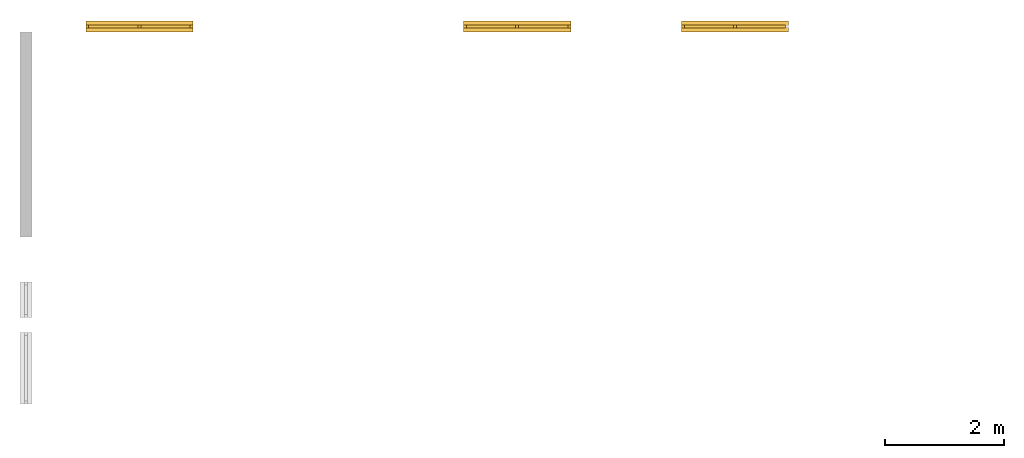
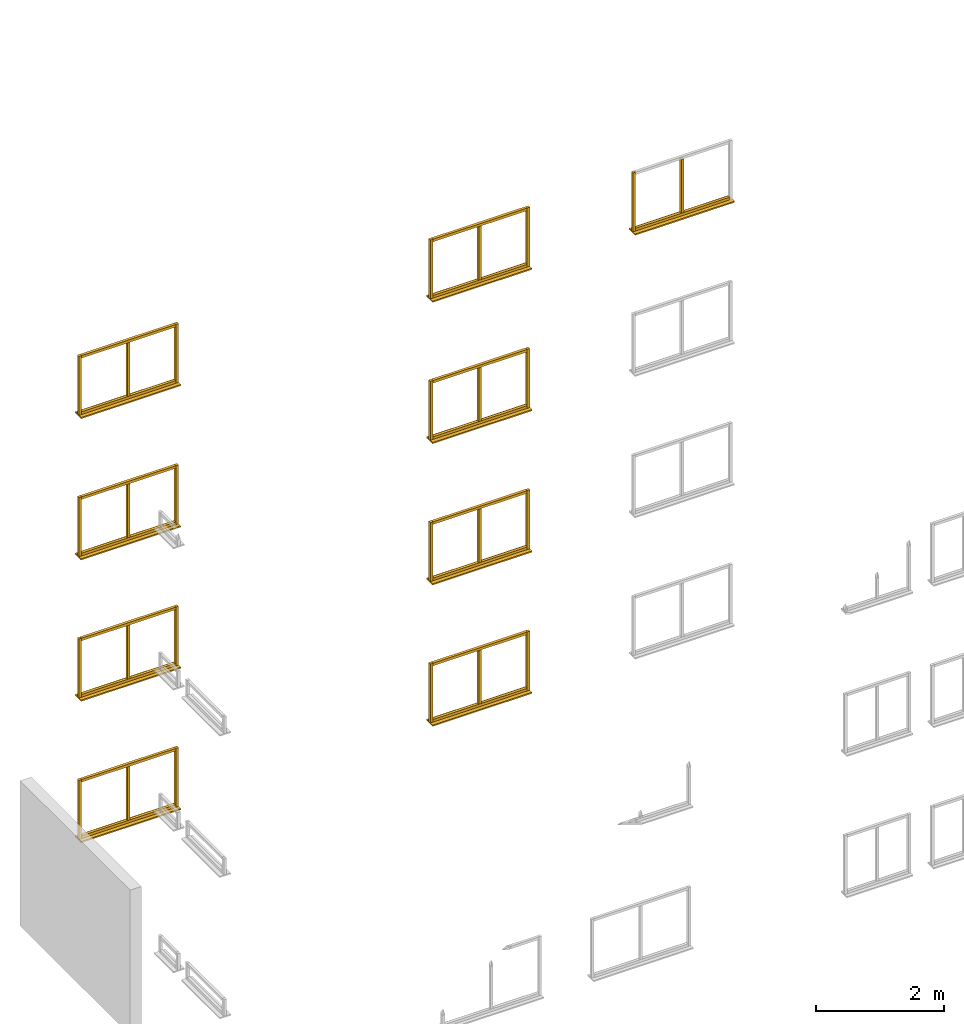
# Not in any storey, part 8 of 22: 52 windows.
"""IFC2X3 model written with IfcOpenShell, lengths in metres."""

from ifc_helpers import new_model, si_unit, frame, origin, place, context, project, faceted_brep, element, save


model = new_model("IFC2X3")

# Units and contexts
model_context = context("Model", 3, precision=1e-06, world=origin())
ifc_project = project(units=[si_unit("LENGTHUNIT", "METRE"), si_unit("PLANEANGLEUNIT", "RADIAN")], contexts=[model_context])

# Windows
placement = place(None, origin())
window_1_placement = place(placement, frame((2.655000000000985, 10.588578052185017, 9.125000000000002), z_axis=(0.0, 0.0, 1.0), x_axis=(-1.0, 0.0, 0.0)))
element("IfcWindow", 1, at=window_1_placement, Name="bottomFrame", context=model_context, shape_type="Brep", body=[
    faceted_brep([(0.0, 0.05, 0.0), (1.7, 0.05, 0.0), (1.7, 0.0, 0.0), (0.0, 0.0, 0.0), (1.7, 0.0, 0.05), (1.7, 0.05, 0.05), (0.0, 0.05, 0.05), (0.0, 0.0, 0.05), (0.0, 0.05, 0.0), (0.0, 0.0, 0.0), (0.0, 0.0, 0.05), (0.0, 0.05, 0.05), (1.7, 0.05, 0.0), (0.0, 0.05, 0.0), (0.0, 0.05, 0.05), (1.7, 0.05, 0.05), (1.7, 0.0, 0.0), (1.7, 0.05, 0.0), (1.7, 0.05, 0.05), (1.7, 0.0, 0.05), (0.0, 0.0, 0.0), (1.7, 0.0, 0.0), (1.7, 0.0, 0.05), (0.0, 0.0, 0.05)], [[[0, 1, 2, 3]], [[4, 5, 6, 7]], [[8, 9, 10, 11]], [[12, 13, 14, 15]], [[16, 17, 18, 19]], [[20, 21, 22, 23]]]),
])
window_2_placement = place(placement, frame((11.839598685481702, 10.588577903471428, 9.175), z_axis=(0.0, 0.0, 1.0), x_axis=(-1.0, 0.0, 0.0)))
element("IfcWindow", 2, at=window_2_placement, Name="verticalBar", context=model_context, shape_type="Brep", body=[
    faceted_brep([(0.0, 0.05, 0.0), (0.05, 0.05, 0.0), (0.05, 0.0, 0.0), (0.0, 0.0, 0.0), (0.05, 0.0, 1.025), (0.05, 0.05, 1.025), (0.0, 0.05, 1.025), (0.0, 0.0, 1.025), (0.0, 0.05, 0.0), (0.0, 0.0, 0.0), (0.0, 0.0, 1.025), (0.0, 0.05, 1.025), (0.05, 0.05, 0.0), (0.0, 0.05, 0.0), (0.0, 0.05, 1.025), (0.05, 0.05, 1.025), (0.05, 0.0, 0.0), (0.05, 0.05, 0.0), (0.05, 0.05, 1.025), (0.05, 0.0, 1.025), (0.0, 0.0, 0.0), (0.05, 0.0, 0.0), (0.05, 0.0, 1.025), (0.0, 0.0, 1.025)], [[[0, 1, 2, 3]], [[4, 5, 6, 7]], [[8, 9, 10, 11]], [[12, 13, 14, 15]], [[16, 17, 18, 19]], [[20, 21, 22, 23]]]),
])
window_3_placement = place(placement, frame((12.714598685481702, 10.657077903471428, 9.100000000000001), z_axis=(0.0, 0.0, 1.0), x_axis=(-1.0, 0.0, 0.0)))
element("IfcWindow", 3, at=window_3_placement, Name="windowSill", context=model_context, shape_type="Brep", body=[
    faceted_brep([(0.0, 0.187, 0.0), (1.8, 0.187, 0.0), (1.8, 0.0, 0.0), (0.0, 0.0, 0.0), (1.8, 0.0, 0.025), (1.8, 0.187, 0.025), (0.0, 0.187, 0.025), (0.0, 0.0, 0.025), (0.0, 0.187, 0.0), (0.0, 0.0, 0.0), (0.0, 0.0, 0.025), (0.0, 0.187, 0.025), (1.8, 0.187, 0.0), (0.0, 0.187, 0.0), (0.0, 0.187, 0.025), (1.8, 0.187, 0.025), (1.8, 0.0, 0.0), (1.8, 0.187, 0.0), (1.8, 0.187, 0.025), (1.8, 0.0, 0.025), (0.0, 0.0, 0.0), (1.8, 0.0, 0.0), (1.8, 0.0, 0.025), (0.0, 0.0, 0.025)], [[[0, 1, 2, 3]], [[4, 5, 6, 7]], [[8, 9, 10, 11]], [[12, 13, 14, 15]], [[16, 17, 18, 19]], [[20, 21, 22, 23]]]),
])
window_4_placement = place(placement, frame((10.964598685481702, 10.588577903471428, 9.125000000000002), z_axis=(0.0, 0.0, 1.0), x_axis=(-1.0, 0.0, 0.0)))
element("IfcWindow", 4, at=window_4_placement, Name="rightFrame", context=model_context, shape_type="Brep", body=[
    faceted_brep([(0.0, 0.05, 0.0), (0.05, 0.05, 0.0), (0.05, 0.0, 0.0), (0.0, 0.0, 0.0), (0.05, 0.0, 1.125), (0.05, 0.05, 1.125), (0.0, 0.05, 1.125), (0.0, 0.0, 1.125), (0.0, 0.05, 0.0), (0.0, 0.0, 0.0), (0.0, 0.0, 1.125), (0.0, 0.05, 1.125), (0.05, 0.05, 0.0), (0.0, 0.05, 0.0), (0.0, 0.05, 1.125), (0.05, 0.05, 1.125), (0.05, 0.0, 0.0), (0.05, 0.05, 0.0), (0.05, 0.05, 1.125), (0.05, 0.0, 1.125), (0.0, 0.0, 0.0), (0.05, 0.0, 0.0), (0.05, 0.0, 1.125), (0.0, 0.0, 1.125)], [[[0, 1, 2, 3]], [[4, 5, 6, 7]], [[8, 9, 10, 11]], [[12, 13, 14, 15]], [[16, 17, 18, 19]], [[20, 21, 22, 23]]]),
])
window_5_placement = place(placement, frame((12.664598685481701, 10.588577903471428, 9.125000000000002), z_axis=(0.0, 0.0, 1.0), x_axis=(-1.0, 0.0, 0.0)))
element("IfcWindow", 5, at=window_5_placement, Name="bottomFrame", context=model_context, shape_type="Brep", body=[
    faceted_brep([(0.0, 0.05, 0.0), (1.7, 0.05, 0.0), (1.7, 0.0, 0.0), (0.0, 0.0, 0.0), (1.7, 0.0, 0.05), (1.7, 0.05, 0.05), (0.0, 0.05, 0.05), (0.0, 0.0, 0.05), (0.0, 0.05, 0.0), (0.0, 0.0, 0.0), (0.0, 0.0, 0.05), (0.0, 0.05, 0.05), (1.7, 0.05, 0.0), (0.0, 0.05, 0.0), (0.0, 0.05, 0.05), (1.7, 0.05, 0.05), (1.7, 0.0, 0.0), (1.7, 0.05, 0.0), (1.7, 0.05, 0.05), (1.7, 0.0, 0.05), (0.0, 0.0, 0.0), (1.7, 0.0, 0.0), (1.7, 0.0, 0.05), (0.0, 0.0, 0.05)], [[[0, 1, 2, 3]], [[4, 5, 6, 7]], [[8, 9, 10, 11]], [[12, 13, 14, 15]], [[16, 17, 18, 19]], [[20, 21, 22, 23]]]),
])
window_6_placement = place(placement, frame((7.304598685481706, 10.588577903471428, 9.125000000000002), z_axis=(0.0, 0.0, 1.0), x_axis=(-1.0, 0.0, 0.0)))
element("IfcWindow", 6, at=window_6_placement, Name="rightFrame", context=model_context, shape_type="Brep", body=[
    faceted_brep([(0.0, 0.05, 0.0), (0.05, 0.05, 0.0), (0.05, 0.0, 0.0), (0.0, 0.0, 0.0), (0.05, 0.0, 1.125), (0.05, 0.05, 1.125), (0.0, 0.05, 1.125), (0.0, 0.0, 1.125), (0.0, 0.05, 0.0), (0.0, 0.0, 0.0), (0.0, 0.0, 1.125), (0.0, 0.05, 1.125), (0.05, 0.05, 0.0), (0.0, 0.05, 0.0), (0.0, 0.05, 1.125), (0.05, 0.05, 1.125), (0.05, 0.0, 0.0), (0.05, 0.05, 0.0), (0.05, 0.05, 1.125), (0.05, 0.0, 1.125), (0.0, 0.0, 0.0), (0.05, 0.0, 0.0), (0.05, 0.0, 1.125), (0.0, 0.0, 1.125)], [[[0, 1, 2, 3]], [[4, 5, 6, 7]], [[8, 9, 10, 11]], [[12, 13, 14, 15]], [[16, 17, 18, 19]], [[20, 21, 22, 23]]]),
])
for number, where, z_axis, x_axis, name in (
    (7, (9.004598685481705, 10.588577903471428, 9.125000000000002), (0.0, 0.0, 1.0), (-1.0, 0.0, 0.0), "bottomFrame"),
    (8, (9.004598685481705, 10.588577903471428, 10.200000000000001), (0.0, 0.0, 1.0), (-1.0, 0.0, 0.0), "topFrame"),
):
    element("IfcWindow", number, at=place(placement, frame(where, z_axis=z_axis, x_axis=x_axis)), Name=name, context=model_context, shape_type="Brep", body=[
        faceted_brep([(0.0, 0.05, 0.0), (1.7, 0.05, 0.0), (1.7, 0.0, 0.0), (0.0, 0.0, 0.0), (1.7, 0.0, 0.05), (1.7, 0.05, 0.05), (0.0, 0.05, 0.05), (0.0, 0.0, 0.05), (0.0, 0.05, 0.0), (0.0, 0.0, 0.0), (0.0, 0.0, 0.05), (0.0, 0.05, 0.05), (1.7, 0.05, 0.0), (0.0, 0.05, 0.0), (0.0, 0.05, 0.05), (1.7, 0.05, 0.05), (1.7, 0.0, 0.0), (1.7, 0.05, 0.0), (1.7, 0.05, 0.05), (1.7, 0.0, 0.05), (0.0, 0.0, 0.0), (1.7, 0.0, 0.0), (1.7, 0.0, 0.05), (0.0, 0.0, 0.05)], [[[0, 1, 2, 3]], [[4, 5, 6, 7]], [[8, 9, 10, 11]], [[12, 13, 14, 15]], [[16, 17, 18, 19]], [[20, 21, 22, 23]]]),
    ])
window_7_placement = place(placement, frame((9.054598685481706, 10.588577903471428, 9.125000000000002), z_axis=(0.0, 0.0, 1.0), x_axis=(-1.0, 0.0, 0.0)))
element("IfcWindow", 9, at=window_7_placement, Name="leftFrame", context=model_context, shape_type="Brep", body=[
    faceted_brep([(0.0, 0.05, 0.0), (0.05, 0.05, 0.0), (0.05, 0.0, 0.0), (0.0, 0.0, 0.0), (0.05, 0.0, 1.125), (0.05, 0.05, 1.125), (0.0, 0.05, 1.125), (0.0, 0.0, 1.125), (0.0, 0.05, 0.0), (0.0, 0.0, 0.0), (0.0, 0.0, 1.125), (0.0, 0.05, 1.125), (0.05, 0.05, 0.0), (0.0, 0.05, 0.0), (0.0, 0.05, 1.125), (0.05, 0.05, 1.125), (0.05, 0.0, 0.0), (0.05, 0.05, 0.0), (0.05, 0.05, 1.125), (0.05, 0.0, 1.125), (0.0, 0.0, 0.0), (0.05, 0.0, 0.0), (0.05, 0.0, 1.125), (0.0, 0.0, 1.125)], [[[0, 1, 2, 3]], [[4, 5, 6, 7]], [[8, 9, 10, 11]], [[12, 13, 14, 15]], [[16, 17, 18, 19]], [[20, 21, 22, 23]]]),
])
window_8_placement = place(placement, frame((8.179598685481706, 10.588577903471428, 9.175), z_axis=(0.0, 0.0, 1.0), x_axis=(-1.0, 0.0, 0.0)))
element("IfcWindow", 10, at=window_8_placement, Name="verticalBar", context=model_context, shape_type="Brep", body=[
    faceted_brep([(0.0, 0.05, 0.0), (0.05, 0.05, 0.0), (0.05, 0.0, 0.0), (0.0, 0.0, 0.0), (0.05, 0.0, 1.025), (0.05, 0.05, 1.025), (0.0, 0.05, 1.025), (0.0, 0.0, 1.025), (0.0, 0.05, 0.0), (0.0, 0.0, 0.0), (0.0, 0.0, 1.025), (0.0, 0.05, 1.025), (0.05, 0.05, 0.0), (0.0, 0.05, 0.0), (0.0, 0.05, 1.025), (0.05, 0.05, 1.025), (0.05, 0.0, 0.0), (0.05, 0.05, 0.0), (0.05, 0.05, 1.025), (0.05, 0.0, 1.025), (0.0, 0.0, 0.0), (0.05, 0.0, 0.0), (0.05, 0.0, 1.025), (0.0, 0.0, 1.025)], [[[0, 1, 2, 3]], [[4, 5, 6, 7]], [[8, 9, 10, 11]], [[12, 13, 14, 15]], [[16, 17, 18, 19]], [[20, 21, 22, 23]]]),
])
window_9_placement = place(placement, frame((9.054598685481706, 10.657077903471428, 9.100000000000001), z_axis=(0.0, 0.0, 1.0), x_axis=(-1.0, 0.0, 0.0)))
element("IfcWindow", 11, at=window_9_placement, Name="windowSill", context=model_context, shape_type="Brep", body=[
    faceted_brep([(0.0, 0.186999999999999, 0.0), (1.8, 0.186999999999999, 0.0), (1.8, 0.0, 0.0), (0.0, 0.0, 0.0), (1.8, 0.0, 0.025), (1.8, 0.186999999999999, 0.025), (0.0, 0.186999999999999, 0.025), (0.0, 0.0, 0.025), (0.0, 0.186999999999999, 0.0), (0.0, 0.0, 0.0), (0.0, 0.0, 0.025), (0.0, 0.186999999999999, 0.025), (1.8, 0.186999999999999, 0.0), (0.0, 0.186999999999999, 0.0), (0.0, 0.186999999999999, 0.025), (1.8, 0.186999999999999, 0.025), (1.8, 0.0, 0.0), (1.8, 0.186999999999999, 0.0), (1.8, 0.186999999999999, 0.025), (1.8, 0.0, 0.025), (0.0, 0.0, 0.0), (1.8, 0.0, 0.0), (1.8, 0.0, 0.025), (0.0, 0.0, 0.025)], [[[0, 1, 2, 3]], [[4, 5, 6, 7]], [[8, 9, 10, 11]], [[12, 13, 14, 15]], [[16, 17, 18, 19]], [[20, 21, 22, 23]]]),
])
window_10_placement = place(placement, frame((9.004598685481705, 10.588577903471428, 3.725), z_axis=(0.0, 0.0, 1.0), x_axis=(-1.0, 0.0, 0.0)))
element("IfcWindow", 12, at=window_10_placement, Name="bottomFrame", context=model_context, shape_type="Brep", body=[
    faceted_brep([(0.0, 0.05, 0.0), (1.7, 0.05, 0.0), (1.7, 0.0, 0.0), (0.0, 0.0, 0.0), (1.7, 0.0, 0.05), (1.7, 0.05, 0.05), (0.0, 0.05, 0.05), (0.0, 0.0, 0.05), (0.0, 0.05, 0.0), (0.0, 0.0, 0.0), (0.0, 0.0, 0.05), (0.0, 0.05, 0.05), (1.7, 0.05, 0.0), (0.0, 0.05, 0.0), (0.0, 0.05, 0.05), (1.7, 0.05, 0.05), (1.7, 0.0, 0.0), (1.7, 0.05, 0.0), (1.7, 0.05, 0.05), (1.7, 0.0, 0.05), (0.0, 0.0, 0.0), (1.7, 0.0, 0.0), (1.7, 0.0, 0.05), (0.0, 0.0, 0.05)], [[[0, 1, 2, 3]], [[4, 5, 6, 7]], [[8, 9, 10, 11]], [[12, 13, 14, 15]], [[16, 17, 18, 19]], [[20, 21, 22, 23]]]),
])
window_11_placement = place(placement, frame((1.830000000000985, 10.588578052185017, 9.175), z_axis=(0.0, 0.0, 1.0), x_axis=(-1.0, 0.0, 0.0)))
element("IfcWindow", 13, at=window_11_placement, Name="verticalBar", context=model_context, shape_type="Brep", body=[
    faceted_brep([(0.0, 0.05, 0.0), (0.05, 0.05, 0.0), (0.05, 0.0, 0.0), (0.0, 0.0, 0.0), (0.05, 0.0, 1.025), (0.05, 0.05, 1.025), (0.0, 0.05, 1.025), (0.0, 0.0, 1.025), (0.0, 0.05, 0.0), (0.0, 0.0, 0.0), (0.0, 0.0, 1.025), (0.0, 0.05, 1.025), (0.05, 0.05, 0.0), (0.0, 0.05, 0.0), (0.0, 0.05, 1.025), (0.05, 0.05, 1.025), (0.05, 0.0, 0.0), (0.05, 0.05, 0.0), (0.05, 0.05, 1.025), (0.05, 0.0, 1.025), (0.0, 0.0, 0.0), (0.05, 0.0, 0.0), (0.05, 0.0, 1.025), (0.0, 0.0, 1.025)], [[[0, 1, 2, 3]], [[4, 5, 6, 7]], [[8, 9, 10, 11]], [[12, 13, 14, 15]], [[16, 17, 18, 19]], [[20, 21, 22, 23]]]),
])
window_12_placement = place(placement, frame((2.705000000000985, 10.657078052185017, 9.100000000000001), z_axis=(0.0, 0.0, 1.0), x_axis=(-1.0, 0.0, 0.0)))
element("IfcWindow", 14, at=window_12_placement, Name="windowSill", context=model_context, shape_type="Brep", body=[
    faceted_brep([(0.0, 0.187, 0.0), (1.8, 0.187, 0.0), (1.8, 0.0, 0.0), (0.0, 0.0, 0.0), (1.8, 0.0, 0.025), (1.8, 0.187, 0.025), (0.0, 0.187, 0.025), (0.0, 0.0, 0.025), (0.0, 0.187, 0.0), (0.0, 0.0, 0.0), (0.0, 0.0, 0.025), (0.0, 0.187, 0.025), (1.8, 0.187, 0.0), (0.0, 0.187, 0.0), (0.0, 0.187, 0.025), (1.8, 0.187, 0.025), (1.8, 0.0, 0.0), (1.8, 0.187, 0.0), (1.8, 0.187, 0.025), (1.8, 0.0, 0.025), (0.0, 0.0, 0.0), (1.8, 0.0, 0.0), (1.8, 0.0, 0.025), (0.0, 0.0, 0.025)], [[[0, 1, 2, 3]], [[4, 5, 6, 7]], [[8, 9, 10, 11]], [[12, 13, 14, 15]], [[16, 17, 18, 19]], [[20, 21, 22, 23]]]),
])
for number, where, z_axis, x_axis, name in (
    (15, (0.955000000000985, 10.588578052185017, 9.125000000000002), (0.0, 0.0, 1.0), (-1.0, 0.0, 0.0), "rightFrame"),
    (16, (2.705000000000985, 10.588578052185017, 9.125000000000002), (0.0, 0.0, 1.0), (-1.0, 0.0, 0.0), "leftFrame"),
):
    element("IfcWindow", number, at=place(placement, frame(where, z_axis=z_axis, x_axis=x_axis)), Name=name, context=model_context, shape_type="Brep", body=[
        faceted_brep([(0.0, 0.05, 0.0), (0.05, 0.05, 0.0), (0.05, 0.0, 0.0), (0.0, 0.0, 0.0), (0.05, 0.0, 1.125), (0.05, 0.05, 1.125), (0.0, 0.05, 1.125), (0.0, 0.0, 1.125), (0.0, 0.05, 0.0), (0.0, 0.0, 0.0), (0.0, 0.0, 1.125), (0.0, 0.05, 1.125), (0.05, 0.05, 0.0), (0.0, 0.05, 0.0), (0.0, 0.05, 1.125), (0.05, 0.05, 1.125), (0.05, 0.0, 0.0), (0.05, 0.05, 0.0), (0.05, 0.05, 1.125), (0.05, 0.0, 1.125), (0.0, 0.0, 0.0), (0.05, 0.0, 0.0), (0.05, 0.0, 1.125), (0.0, 0.0, 1.125)], [[[0, 1, 2, 3]], [[4, 5, 6, 7]], [[8, 9, 10, 11]], [[12, 13, 14, 15]], [[16, 17, 18, 19]], [[20, 21, 22, 23]]]),
    ])
for number, where, z_axis, x_axis, name in (
    (17, (2.655000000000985, 10.588578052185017, 10.200000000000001), (0.0, 0.0, 1.0), (-1.0, 0.0, 0.0), "topFrame"),
    (18, (2.655000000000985, 10.588578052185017, 6.425000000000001), (0.0, 0.0, 1.0), (-1.0, 0.0, 0.0), "bottomFrame"),
    (19, (2.655000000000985, 10.588578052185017, 7.5), (0.0, 0.0, 1.0), (-1.0, 0.0, 0.0), "topFrame"),
):
    element("IfcWindow", number, at=place(placement, frame(where, z_axis=z_axis, x_axis=x_axis)), Name=name, context=model_context, shape_type="Brep", body=[
        faceted_brep([(0.0, 0.05, 0.0), (1.7, 0.05, 0.0), (1.7, 0.0, 0.0), (0.0, 0.0, 0.0), (1.7, 0.0, 0.05), (1.7, 0.05, 0.05), (0.0, 0.05, 0.05), (0.0, 0.0, 0.05), (0.0, 0.05, 0.0), (0.0, 0.0, 0.0), (0.0, 0.0, 0.05), (0.0, 0.05, 0.05), (1.7, 0.05, 0.0), (0.0, 0.05, 0.0), (0.0, 0.05, 0.05), (1.7, 0.05, 0.05), (1.7, 0.0, 0.0), (1.7, 0.05, 0.0), (1.7, 0.05, 0.05), (1.7, 0.0, 0.05), (0.0, 0.0, 0.0), (1.7, 0.0, 0.0), (1.7, 0.0, 0.05), (0.0, 0.0, 0.05)], [[[0, 1, 2, 3]], [[4, 5, 6, 7]], [[8, 9, 10, 11]], [[12, 13, 14, 15]], [[16, 17, 18, 19]], [[20, 21, 22, 23]]]),
    ])
window_13_placement = place(placement, frame((2.705000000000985, 10.588578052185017, 6.425000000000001), z_axis=(0.0, 0.0, 1.0), x_axis=(-1.0, 0.0, 0.0)))
element("IfcWindow", 20, at=window_13_placement, Name="leftFrame", context=model_context, shape_type="Brep", body=[
    faceted_brep([(0.0, 0.05, 0.0), (0.05, 0.05, 0.0), (0.05, 0.0, 0.0), (0.0, 0.0, 0.0), (0.05, 0.0, 1.125), (0.05, 0.05, 1.125), (0.0, 0.05, 1.125), (0.0, 0.0, 1.125), (0.0, 0.05, 0.0), (0.0, 0.0, 0.0), (0.0, 0.0, 1.125), (0.0, 0.05, 1.125), (0.05, 0.05, 0.0), (0.0, 0.05, 0.0), (0.0, 0.05, 1.125), (0.05, 0.05, 1.125), (0.05, 0.0, 0.0), (0.05, 0.05, 0.0), (0.05, 0.05, 1.125), (0.05, 0.0, 1.125), (0.0, 0.0, 0.0), (0.05, 0.0, 0.0), (0.05, 0.0, 1.125), (0.0, 0.0, 1.125)], [[[0, 1, 2, 3]], [[4, 5, 6, 7]], [[8, 9, 10, 11]], [[12, 13, 14, 15]], [[16, 17, 18, 19]], [[20, 21, 22, 23]]]),
])
window_14_placement = place(placement, frame((2.705000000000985, 10.657078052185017, 6.4), z_axis=(0.0, 0.0, 1.0), x_axis=(-1.0, 0.0, 0.0)))
element("IfcWindow", 21, at=window_14_placement, Name="windowSill", context=model_context, shape_type="Brep", body=[
    faceted_brep([(0.0, 0.187, 0.0), (1.8, 0.187, 0.0), (1.8, 0.0, 0.0), (0.0, 0.0, 0.0), (1.8, 0.0, 0.025), (1.8, 0.187, 0.025), (0.0, 0.187, 0.025), (0.0, 0.0, 0.025), (0.0, 0.187, 0.0), (0.0, 0.0, 0.0), (0.0, 0.0, 0.025), (0.0, 0.187, 0.025), (1.8, 0.187, 0.0), (0.0, 0.187, 0.0), (0.0, 0.187, 0.025), (1.8, 0.187, 0.025), (1.8, 0.0, 0.0), (1.8, 0.187, 0.0), (1.8, 0.187, 0.025), (1.8, 0.0, 0.025), (0.0, 0.0, 0.0), (1.8, 0.0, 0.0), (1.8, 0.0, 0.025), (0.0, 0.0, 0.025)], [[[0, 1, 2, 3]], [[4, 5, 6, 7]], [[8, 9, 10, 11]], [[12, 13, 14, 15]], [[16, 17, 18, 19]], [[20, 21, 22, 23]]]),
])
for number, where, z_axis, x_axis, name in (
    (22, (1.830000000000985, 10.588578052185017, 6.475000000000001), (0.0, 0.0, 1.0), (-1.0, 0.0, 0.0), "verticalBar"),
    (23, (8.179598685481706, 10.588577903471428, 6.475000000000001), (0.0, 0.0, 1.0), (-1.0, 0.0, 0.0), "verticalBar"),
):
    element("IfcWindow", number, at=place(placement, frame(where, z_axis=z_axis, x_axis=x_axis)), Name=name, context=model_context, shape_type="Brep", body=[
        faceted_brep([(0.0, 0.05, 0.0), (0.05, 0.05, 0.0), (0.05, 0.0, 0.0), (0.0, 0.0, 0.0), (0.05, 0.0, 1.025), (0.05, 0.05, 1.025), (0.0, 0.05, 1.025), (0.0, 0.0, 1.025), (0.0, 0.05, 0.0), (0.0, 0.0, 0.0), (0.0, 0.0, 1.025), (0.0, 0.05, 1.025), (0.05, 0.05, 0.0), (0.0, 0.05, 0.0), (0.0, 0.05, 1.025), (0.05, 0.05, 1.025), (0.05, 0.0, 0.0), (0.05, 0.05, 0.0), (0.05, 0.05, 1.025), (0.05, 0.0, 1.025), (0.0, 0.0, 0.0), (0.05, 0.0, 0.0), (0.05, 0.0, 1.025), (0.0, 0.0, 1.025)], [[[0, 1, 2, 3]], [[4, 5, 6, 7]], [[8, 9, 10, 11]], [[12, 13, 14, 15]], [[16, 17, 18, 19]], [[20, 21, 22, 23]]]),
    ])
window_15_placement = place(placement, frame((9.054598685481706, 10.588577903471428, 6.425000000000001), z_axis=(0.0, 0.0, 1.0), x_axis=(-1.0, 0.0, 0.0)))
element("IfcWindow", 24, at=window_15_placement, Name="leftFrame", context=model_context, shape_type="Brep", body=[
    faceted_brep([(0.0, 0.05, 0.0), (0.05, 0.05, 0.0), (0.05, 0.0, 0.0), (0.0, 0.0, 0.0), (0.05, 0.0, 1.125), (0.05, 0.05, 1.125), (0.0, 0.05, 1.125), (0.0, 0.0, 1.125), (0.0, 0.05, 0.0), (0.0, 0.0, 0.0), (0.0, 0.0, 1.125), (0.0, 0.05, 1.125), (0.05, 0.05, 0.0), (0.0, 0.05, 0.0), (0.0, 0.05, 1.125), (0.05, 0.05, 1.125), (0.05, 0.0, 0.0), (0.05, 0.05, 0.0), (0.05, 0.05, 1.125), (0.05, 0.0, 1.125), (0.0, 0.0, 0.0), (0.05, 0.0, 0.0), (0.05, 0.0, 1.125), (0.0, 0.0, 1.125)], [[[0, 1, 2, 3]], [[4, 5, 6, 7]], [[8, 9, 10, 11]], [[12, 13, 14, 15]], [[16, 17, 18, 19]], [[20, 21, 22, 23]]]),
])
for number, where, z_axis, x_axis, name in (
    (25, (9.004598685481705, 10.588577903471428, 6.425000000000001), (0.0, 0.0, 1.0), (-1.0, 0.0, 0.0), "bottomFrame"),
    (26, (9.004598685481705, 10.588577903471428, 7.5), (0.0, 0.0, 1.0), (-1.0, 0.0, 0.0), "topFrame"),
):
    element("IfcWindow", number, at=place(placement, frame(where, z_axis=z_axis, x_axis=x_axis)), Name=name, context=model_context, shape_type="Brep", body=[
        faceted_brep([(0.0, 0.05, 0.0), (1.7, 0.05, 0.0), (1.7, 0.0, 0.0), (0.0, 0.0, 0.0), (1.7, 0.0, 0.05), (1.7, 0.05, 0.05), (0.0, 0.05, 0.05), (0.0, 0.0, 0.05), (0.0, 0.05, 0.0), (0.0, 0.0, 0.0), (0.0, 0.0, 0.05), (0.0, 0.05, 0.05), (1.7, 0.05, 0.0), (0.0, 0.05, 0.0), (0.0, 0.05, 0.05), (1.7, 0.05, 0.05), (1.7, 0.0, 0.0), (1.7, 0.05, 0.0), (1.7, 0.05, 0.05), (1.7, 0.0, 0.05), (0.0, 0.0, 0.0), (1.7, 0.0, 0.0), (1.7, 0.0, 0.05), (0.0, 0.0, 0.05)], [[[0, 1, 2, 3]], [[4, 5, 6, 7]], [[8, 9, 10, 11]], [[12, 13, 14, 15]], [[16, 17, 18, 19]], [[20, 21, 22, 23]]]),
    ])
for number, where, z_axis, x_axis, name in (
    (27, (7.304598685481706, 10.588577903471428, 6.425000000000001), (0.0, 0.0, 1.0), (-1.0, 0.0, 0.0), "rightFrame"),
    (28, (0.955000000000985, 10.588578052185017, 6.425000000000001), (0.0, 0.0, 1.0), (-1.0, 0.0, 0.0), "rightFrame"),
    (29, (7.304598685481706, 10.588577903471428, 3.725), (0.0, 0.0, 1.0), (-1.0, 0.0, 0.0), "rightFrame"),
    (30, (9.054598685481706, 10.588577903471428, 3.725), (0.0, 0.0, 1.0), (-1.0, 0.0, 0.0), "leftFrame"),
):
    element("IfcWindow", number, at=place(placement, frame(where, z_axis=z_axis, x_axis=x_axis)), Name=name, context=model_context, shape_type="Brep", body=[
        faceted_brep([(0.0, 0.05, 0.0), (0.05, 0.05, 0.0), (0.05, 0.0, 0.0), (0.0, 0.0, 0.0), (0.05, 0.0, 1.125), (0.05, 0.05, 1.125), (0.0, 0.05, 1.125), (0.0, 0.0, 1.125), (0.0, 0.05, 0.0), (0.0, 0.0, 0.0), (0.0, 0.0, 1.125), (0.0, 0.05, 1.125), (0.05, 0.05, 0.0), (0.0, 0.05, 0.0), (0.0, 0.05, 1.125), (0.05, 0.05, 1.125), (0.05, 0.0, 0.0), (0.05, 0.05, 0.0), (0.05, 0.05, 1.125), (0.05, 0.0, 1.125), (0.0, 0.0, 0.0), (0.05, 0.0, 0.0), (0.05, 0.0, 1.125), (0.0, 0.0, 1.125)], [[[0, 1, 2, 3]], [[4, 5, 6, 7]], [[8, 9, 10, 11]], [[12, 13, 14, 15]], [[16, 17, 18, 19]], [[20, 21, 22, 23]]]),
    ])
window_16_placement = place(placement, frame((8.179598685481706, 10.588577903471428, 3.775), z_axis=(0.0, 0.0, 1.0), x_axis=(-1.0, 0.0, 0.0)))
element("IfcWindow", 31, at=window_16_placement, Name="verticalBar", context=model_context, shape_type="Brep", body=[
    faceted_brep([(0.0, 0.05, 0.0), (0.05, 0.05, 0.0), (0.05, 0.0, 0.0), (0.0, 0.0, 0.0), (0.05, 0.0, 1.025), (0.05, 0.05, 1.025), (0.0, 0.05, 1.025), (0.0, 0.0, 1.025), (0.0, 0.05, 0.0), (0.0, 0.0, 0.0), (0.0, 0.0, 1.025), (0.0, 0.05, 1.025), (0.05, 0.05, 0.0), (0.0, 0.05, 0.0), (0.0, 0.05, 1.025), (0.05, 0.05, 1.025), (0.05, 0.0, 0.0), (0.05, 0.05, 0.0), (0.05, 0.05, 1.025), (0.05, 0.0, 1.025), (0.0, 0.0, 0.0), (0.05, 0.0, 0.0), (0.05, 0.0, 1.025), (0.0, 0.0, 1.025)], [[[0, 1, 2, 3]], [[4, 5, 6, 7]], [[8, 9, 10, 11]], [[12, 13, 14, 15]], [[16, 17, 18, 19]], [[20, 21, 22, 23]]]),
])
window_17_placement = place(placement, frame((9.054598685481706, 10.657077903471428, 3.7), z_axis=(0.0, 0.0, 1.0), x_axis=(-1.0, 0.0, 0.0)))
element("IfcWindow", 32, at=window_17_placement, Name="windowSill", context=model_context, shape_type="Brep", body=[
    faceted_brep([(0.0, 0.186999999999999, 0.0), (1.8, 0.186999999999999, 0.0), (1.8, 0.0, 0.0), (0.0, 0.0, 0.0), (1.8, 0.0, 0.025), (1.8, 0.186999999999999, 0.025), (0.0, 0.186999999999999, 0.025), (0.0, 0.0, 0.025), (0.0, 0.186999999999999, 0.0), (0.0, 0.0, 0.0), (0.0, 0.0, 0.025), (0.0, 0.186999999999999, 0.025), (1.8, 0.186999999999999, 0.0), (0.0, 0.186999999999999, 0.0), (0.0, 0.186999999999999, 0.025), (1.8, 0.186999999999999, 0.025), (1.8, 0.0, 0.0), (1.8, 0.186999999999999, 0.0), (1.8, 0.186999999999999, 0.025), (1.8, 0.0, 0.025), (0.0, 0.0, 0.0), (1.8, 0.0, 0.0), (1.8, 0.0, 0.025), (0.0, 0.0, 0.025)], [[[0, 1, 2, 3]], [[4, 5, 6, 7]], [[8, 9, 10, 11]], [[12, 13, 14, 15]], [[16, 17, 18, 19]], [[20, 21, 22, 23]]]),
])
window_18_placement = place(placement, frame((9.004598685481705, 10.588577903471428, 4.8), z_axis=(0.0, 0.0, 1.0), x_axis=(-1.0, 0.0, 0.0)))
element("IfcWindow", 33, at=window_18_placement, Name="topFrame", context=model_context, shape_type="Brep", body=[
    faceted_brep([(0.0, 0.05, 0.0), (1.7, 0.05, 0.0), (1.7, 0.0, 0.0), (0.0, 0.0, 0.0), (1.7, 0.0, 0.05), (1.7, 0.05, 0.05), (0.0, 0.05, 0.05), (0.0, 0.0, 0.05), (0.0, 0.05, 0.0), (0.0, 0.0, 0.0), (0.0, 0.0, 0.05), (0.0, 0.05, 0.05), (1.7, 0.05, 0.0), (0.0, 0.05, 0.0), (0.0, 0.05, 0.05), (1.7, 0.05, 0.05), (1.7, 0.0, 0.0), (1.7, 0.05, 0.0), (1.7, 0.05, 0.05), (1.7, 0.0, 0.05), (0.0, 0.0, 0.0), (1.7, 0.0, 0.0), (1.7, 0.0, 0.05), (0.0, 0.0, 0.05)], [[[0, 1, 2, 3]], [[4, 5, 6, 7]], [[8, 9, 10, 11]], [[12, 13, 14, 15]], [[16, 17, 18, 19]], [[20, 21, 22, 23]]]),
])
window_19_placement = place(placement, frame((1.830000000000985, 10.588578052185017, 3.775), z_axis=(0.0, 0.0, 1.0), x_axis=(-1.0, 0.0, 0.0)))
element("IfcWindow", 34, at=window_19_placement, Name="verticalBar", context=model_context, shape_type="Brep", body=[
    faceted_brep([(0.0, 0.05, 0.0), (0.05, 0.05, 0.0), (0.05, 0.0, 0.0), (0.0, 0.0, 0.0), (0.05, 0.0, 1.025), (0.05, 0.05, 1.025), (0.0, 0.05, 1.025), (0.0, 0.0, 1.025), (0.0, 0.05, 0.0), (0.0, 0.0, 0.0), (0.0, 0.0, 1.025), (0.0, 0.05, 1.025), (0.05, 0.05, 0.0), (0.0, 0.05, 0.0), (0.0, 0.05, 1.025), (0.05, 0.05, 1.025), (0.05, 0.0, 0.0), (0.05, 0.05, 0.0), (0.05, 0.05, 1.025), (0.05, 0.0, 1.025), (0.0, 0.0, 0.0), (0.05, 0.0, 0.0), (0.05, 0.0, 1.025), (0.0, 0.0, 1.025)], [[[0, 1, 2, 3]], [[4, 5, 6, 7]], [[8, 9, 10, 11]], [[12, 13, 14, 15]], [[16, 17, 18, 19]], [[20, 21, 22, 23]]]),
])
window_20_placement = place(placement, frame((2.705000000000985, 10.657078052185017, 3.7), z_axis=(0.0, 0.0, 1.0), x_axis=(-1.0, 0.0, 0.0)))
element("IfcWindow", 35, at=window_20_placement, Name="windowSill", context=model_context, shape_type="Brep", body=[
    faceted_brep([(0.0, 0.187, 0.0), (1.8, 0.187, 0.0), (1.8, 0.0, 0.0), (0.0, 0.0, 0.0), (1.8, 0.0, 0.025), (1.8, 0.187, 0.025), (0.0, 0.187, 0.025), (0.0, 0.0, 0.025), (0.0, 0.187, 0.0), (0.0, 0.0, 0.0), (0.0, 0.0, 0.025), (0.0, 0.187, 0.025), (1.8, 0.187, 0.0), (0.0, 0.187, 0.0), (0.0, 0.187, 0.025), (1.8, 0.187, 0.025), (1.8, 0.0, 0.0), (1.8, 0.187, 0.0), (1.8, 0.187, 0.025), (1.8, 0.0, 0.025), (0.0, 0.0, 0.0), (1.8, 0.0, 0.0), (1.8, 0.0, 0.025), (0.0, 0.0, 0.025)], [[[0, 1, 2, 3]], [[4, 5, 6, 7]], [[8, 9, 10, 11]], [[12, 13, 14, 15]], [[16, 17, 18, 19]], [[20, 21, 22, 23]]]),
])
for number, where, z_axis, x_axis, name in (
    (36, (0.955000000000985, 10.588578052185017, 3.725), (0.0, 0.0, 1.0), (-1.0, 0.0, 0.0), "rightFrame"),
    (37, (2.705000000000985, 10.588578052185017, 3.725), (0.0, 0.0, 1.0), (-1.0, 0.0, 0.0), "leftFrame"),
):
    element("IfcWindow", number, at=place(placement, frame(where, z_axis=z_axis, x_axis=x_axis)), Name=name, context=model_context, shape_type="Brep", body=[
        faceted_brep([(0.0, 0.05, 0.0), (0.05, 0.05, 0.0), (0.05, 0.0, 0.0), (0.0, 0.0, 0.0), (0.05, 0.0, 1.125), (0.05, 0.05, 1.125), (0.0, 0.05, 1.125), (0.0, 0.0, 1.125), (0.0, 0.05, 0.0), (0.0, 0.0, 0.0), (0.0, 0.0, 1.125), (0.0, 0.05, 1.125), (0.05, 0.05, 0.0), (0.0, 0.05, 0.0), (0.0, 0.05, 1.125), (0.05, 0.05, 1.125), (0.05, 0.0, 0.0), (0.05, 0.05, 0.0), (0.05, 0.05, 1.125), (0.05, 0.0, 1.125), (0.0, 0.0, 0.0), (0.05, 0.0, 0.0), (0.05, 0.0, 1.125), (0.0, 0.0, 1.125)], [[[0, 1, 2, 3]], [[4, 5, 6, 7]], [[8, 9, 10, 11]], [[12, 13, 14, 15]], [[16, 17, 18, 19]], [[20, 21, 22, 23]]]),
    ])
for number, where, z_axis, x_axis, name in (
    (38, (2.655000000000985, 10.588578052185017, 4.8), (0.0, 0.0, 1.0), (-1.0, 0.0, 0.0), "topFrame"),
    (39, (2.655000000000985, 10.588578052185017, 3.725), (0.0, 0.0, 1.0), (-1.0, 0.0, 0.0), "bottomFrame"),
    (40, (9.004598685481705, 10.588577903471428, 2.1), (0.0, 0.0, 1.0), (-1.0, 0.0, 0.0), "topFrame"),
):
    element("IfcWindow", number, at=place(placement, frame(where, z_axis=z_axis, x_axis=x_axis)), Name=name, context=model_context, shape_type="Brep", body=[
        faceted_brep([(0.0, 0.05, 0.0), (1.7, 0.05, 0.0), (1.7, 0.0, 0.0), (0.0, 0.0, 0.0), (1.7, 0.0, 0.05), (1.7, 0.05, 0.05), (0.0, 0.05, 0.05), (0.0, 0.0, 0.05), (0.0, 0.05, 0.0), (0.0, 0.0, 0.0), (0.0, 0.0, 0.05), (0.0, 0.05, 0.05), (1.7, 0.05, 0.0), (0.0, 0.05, 0.0), (0.0, 0.05, 0.05), (1.7, 0.05, 0.05), (1.7, 0.0, 0.0), (1.7, 0.05, 0.0), (1.7, 0.05, 0.05), (1.7, 0.0, 0.05), (0.0, 0.0, 0.0), (1.7, 0.0, 0.0), (1.7, 0.0, 0.05), (0.0, 0.0, 0.05)], [[[0, 1, 2, 3]], [[4, 5, 6, 7]], [[8, 9, 10, 11]], [[12, 13, 14, 15]], [[16, 17, 18, 19]], [[20, 21, 22, 23]]]),
    ])
window_21_placement = place(placement, frame((9.054598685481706, 10.657077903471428, 1.0), z_axis=(0.0, 0.0, 1.0), x_axis=(-1.0, 0.0, 0.0)))
element("IfcWindow", 41, at=window_21_placement, Name="windowSill", context=model_context, shape_type="Brep", body=[
    faceted_brep([(0.0, 0.186999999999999, 0.0), (1.8, 0.186999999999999, 0.0), (1.8, 0.0, 0.0), (0.0, 0.0, 0.0), (1.8, 0.0, 0.025), (1.8, 0.186999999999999, 0.025), (0.0, 0.186999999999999, 0.025), (0.0, 0.0, 0.025), (0.0, 0.186999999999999, 0.0), (0.0, 0.0, 0.0), (0.0, 0.0, 0.025), (0.0, 0.186999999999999, 0.025), (1.8, 0.186999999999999, 0.0), (0.0, 0.186999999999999, 0.0), (0.0, 0.186999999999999, 0.025), (1.8, 0.186999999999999, 0.025), (1.8, 0.0, 0.0), (1.8, 0.186999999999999, 0.0), (1.8, 0.186999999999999, 0.025), (1.8, 0.0, 0.025), (0.0, 0.0, 0.0), (1.8, 0.0, 0.0), (1.8, 0.0, 0.025), (0.0, 0.0, 0.025)], [[[0, 1, 2, 3]], [[4, 5, 6, 7]], [[8, 9, 10, 11]], [[12, 13, 14, 15]], [[16, 17, 18, 19]], [[20, 21, 22, 23]]]),
])
window_22_placement = place(placement, frame((8.179598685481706, 10.588577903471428, 1.075), z_axis=(0.0, 0.0, 1.0), x_axis=(-1.0, 0.0, 0.0)))
element("IfcWindow", 42, at=window_22_placement, Name="verticalBar", context=model_context, shape_type="Brep", body=[
    faceted_brep([(0.0, 0.05, 0.0), (0.05, 0.05, 0.0), (0.05, 0.0, 0.0), (0.0, 0.0, 0.0), (0.05, 0.0, 1.025), (0.05, 0.05, 1.025), (0.0, 0.05, 1.025), (0.0, 0.0, 1.025), (0.0, 0.05, 0.0), (0.0, 0.0, 0.0), (0.0, 0.0, 1.025), (0.0, 0.05, 1.025), (0.05, 0.05, 0.0), (0.0, 0.05, 0.0), (0.0, 0.05, 1.025), (0.05, 0.05, 1.025), (0.05, 0.0, 0.0), (0.05, 0.05, 0.0), (0.05, 0.05, 1.025), (0.05, 0.0, 1.025), (0.0, 0.0, 0.0), (0.05, 0.0, 0.0), (0.05, 0.0, 1.025), (0.0, 0.0, 1.025)], [[[0, 1, 2, 3]], [[4, 5, 6, 7]], [[8, 9, 10, 11]], [[12, 13, 14, 15]], [[16, 17, 18, 19]], [[20, 21, 22, 23]]]),
])
window_23_placement = place(placement, frame((9.054598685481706, 10.588577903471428, 1.025), z_axis=(0.0, 0.0, 1.0), x_axis=(-1.0, 0.0, 0.0)))
element("IfcWindow", 43, at=window_23_placement, Name="leftFrame", context=model_context, shape_type="Brep", body=[
    faceted_brep([(0.0, 0.05, 0.0), (0.05, 0.05, 0.0), (0.05, 0.0, 0.0), (0.0, 0.0, 0.0), (0.05, 0.0, 1.125), (0.05, 0.05, 1.125), (0.0, 0.05, 1.125), (0.0, 0.0, 1.125), (0.0, 0.05, 0.0), (0.0, 0.0, 0.0), (0.0, 0.0, 1.125), (0.0, 0.05, 1.125), (0.05, 0.05, 0.0), (0.0, 0.05, 0.0), (0.0, 0.05, 1.125), (0.05, 0.05, 1.125), (0.05, 0.0, 0.0), (0.05, 0.05, 0.0), (0.05, 0.05, 1.125), (0.05, 0.0, 1.125), (0.0, 0.0, 0.0), (0.05, 0.0, 0.0), (0.05, 0.0, 1.125), (0.0, 0.0, 1.125)], [[[0, 1, 2, 3]], [[4, 5, 6, 7]], [[8, 9, 10, 11]], [[12, 13, 14, 15]], [[16, 17, 18, 19]], [[20, 21, 22, 23]]]),
])
window_24_placement = place(placement, frame((9.004598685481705, 10.588577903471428, 1.025), z_axis=(0.0, 0.0, 1.0), x_axis=(-1.0, 0.0, 0.0)))
element("IfcWindow", 44, at=window_24_placement, Name="bottomFrame", context=model_context, shape_type="Brep", body=[
    faceted_brep([(0.0, 0.05, 0.0), (1.7, 0.05, 0.0), (1.7, 0.0, 0.0), (0.0, 0.0, 0.0), (1.7, 0.0, 0.05), (1.7, 0.05, 0.05), (0.0, 0.05, 0.05), (0.0, 0.0, 0.05), (0.0, 0.05, 0.0), (0.0, 0.0, 0.0), (0.0, 0.0, 0.05), (0.0, 0.05, 0.05), (1.7, 0.05, 0.0), (0.0, 0.05, 0.0), (0.0, 0.05, 0.05), (1.7, 0.05, 0.05), (1.7, 0.0, 0.0), (1.7, 0.05, 0.0), (1.7, 0.05, 0.05), (1.7, 0.0, 0.05), (0.0, 0.0, 0.0), (1.7, 0.0, 0.0), (1.7, 0.0, 0.05), (0.0, 0.0, 0.05)], [[[0, 1, 2, 3]], [[4, 5, 6, 7]], [[8, 9, 10, 11]], [[12, 13, 14, 15]], [[16, 17, 18, 19]], [[20, 21, 22, 23]]]),
])
window_25_placement = place(placement, frame((7.304598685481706, 10.588577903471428, 1.025), z_axis=(0.0, 0.0, 1.0), x_axis=(-1.0, 0.0, 0.0)))
element("IfcWindow", 45, at=window_25_placement, Name="rightFrame", context=model_context, shape_type="Brep", body=[
    faceted_brep([(0.0, 0.05, 0.0), (0.05, 0.05, 0.0), (0.05, 0.0, 0.0), (0.0, 0.0, 0.0), (0.05, 0.0, 1.125), (0.05, 0.05, 1.125), (0.0, 0.05, 1.125), (0.0, 0.0, 1.125), (0.0, 0.05, 0.0), (0.0, 0.0, 0.0), (0.0, 0.0, 1.125), (0.0, 0.05, 1.125), (0.05, 0.05, 0.0), (0.0, 0.05, 0.0), (0.0, 0.05, 1.125), (0.05, 0.05, 1.125), (0.05, 0.0, 0.0), (0.05, 0.05, 0.0), (0.05, 0.05, 1.125), (0.05, 0.0, 1.125), (0.0, 0.0, 0.0), (0.05, 0.0, 0.0), (0.05, 0.0, 1.125), (0.0, 0.0, 1.125)], [[[0, 1, 2, 3]], [[4, 5, 6, 7]], [[8, 9, 10, 11]], [[12, 13, 14, 15]], [[16, 17, 18, 19]], [[20, 21, 22, 23]]]),
])
for number, where, z_axis, x_axis, name in (
    (46, (2.655000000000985, 10.588578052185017, 1.025), (0.0, 0.0, 1.0), (-1.0, 0.0, 0.0), "bottomFrame"),
    (47, (2.655000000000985, 10.588578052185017, 2.1), (0.0, 0.0, 1.0), (-1.0, 0.0, 0.0), "topFrame"),
):
    element("IfcWindow", number, at=place(placement, frame(where, z_axis=z_axis, x_axis=x_axis)), Name=name, context=model_context, shape_type="Brep", body=[
        faceted_brep([(0.0, 0.05, 0.0), (1.7, 0.05, 0.0), (1.7, 0.0, 0.0), (0.0, 0.0, 0.0), (1.7, 0.0, 0.05), (1.7, 0.05, 0.05), (0.0, 0.05, 0.05), (0.0, 0.0, 0.05), (0.0, 0.05, 0.0), (0.0, 0.0, 0.0), (0.0, 0.0, 0.05), (0.0, 0.05, 0.05), (1.7, 0.05, 0.0), (0.0, 0.05, 0.0), (0.0, 0.05, 0.05), (1.7, 0.05, 0.05), (1.7, 0.0, 0.0), (1.7, 0.05, 0.0), (1.7, 0.05, 0.05), (1.7, 0.0, 0.05), (0.0, 0.0, 0.0), (1.7, 0.0, 0.0), (1.7, 0.0, 0.05), (0.0, 0.0, 0.05)], [[[0, 1, 2, 3]], [[4, 5, 6, 7]], [[8, 9, 10, 11]], [[12, 13, 14, 15]], [[16, 17, 18, 19]], [[20, 21, 22, 23]]]),
    ])
for number, where, z_axis, x_axis, name in (
    (48, (2.705000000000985, 10.588578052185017, 1.025), (0.0, 0.0, 1.0), (-1.0, 0.0, 0.0), "leftFrame"),
    (49, (0.955000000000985, 10.588578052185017, 1.025), (0.0, 0.0, 1.0), (-1.0, 0.0, 0.0), "rightFrame"),
):
    element("IfcWindow", number, at=place(placement, frame(where, z_axis=z_axis, x_axis=x_axis)), Name=name, context=model_context, shape_type="Brep", body=[
        faceted_brep([(0.0, 0.05, 0.0), (0.05, 0.05, 0.0), (0.05, 0.0, 0.0), (0.0, 0.0, 0.0), (0.05, 0.0, 1.125), (0.05, 0.05, 1.125), (0.0, 0.05, 1.125), (0.0, 0.0, 1.125), (0.0, 0.05, 0.0), (0.0, 0.0, 0.0), (0.0, 0.0, 1.125), (0.0, 0.05, 1.125), (0.05, 0.05, 0.0), (0.0, 0.05, 0.0), (0.0, 0.05, 1.125), (0.05, 0.05, 1.125), (0.05, 0.0, 0.0), (0.05, 0.05, 0.0), (0.05, 0.05, 1.125), (0.05, 0.0, 1.125), (0.0, 0.0, 0.0), (0.05, 0.0, 0.0), (0.05, 0.0, 1.125), (0.0, 0.0, 1.125)], [[[0, 1, 2, 3]], [[4, 5, 6, 7]], [[8, 9, 10, 11]], [[12, 13, 14, 15]], [[16, 17, 18, 19]], [[20, 21, 22, 23]]]),
    ])
window_26_placement = place(placement, frame((2.705000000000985, 10.657078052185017, 1.0), z_axis=(0.0, 0.0, 1.0), x_axis=(-1.0, 0.0, 0.0)))
element("IfcWindow", 50, at=window_26_placement, Name="windowSill", context=model_context, shape_type="Brep", body=[
    faceted_brep([(0.0, 0.187, 0.0), (1.8, 0.187, 0.0), (1.8, 0.0, 0.0), (0.0, 0.0, 0.0), (1.8, 0.0, 0.025), (1.8, 0.187, 0.025), (0.0, 0.187, 0.025), (0.0, 0.0, 0.025), (0.0, 0.187, 0.0), (0.0, 0.0, 0.0), (0.0, 0.0, 0.025), (0.0, 0.187, 0.025), (1.8, 0.187, 0.0), (0.0, 0.187, 0.0), (0.0, 0.187, 0.025), (1.8, 0.187, 0.025), (1.8, 0.0, 0.0), (1.8, 0.187, 0.0), (1.8, 0.187, 0.025), (1.8, 0.0, 0.025), (0.0, 0.0, 0.0), (1.8, 0.0, 0.0), (1.8, 0.0, 0.025), (0.0, 0.0, 0.025)], [[[0, 1, 2, 3]], [[4, 5, 6, 7]], [[8, 9, 10, 11]], [[12, 13, 14, 15]], [[16, 17, 18, 19]], [[20, 21, 22, 23]]]),
])
window_27_placement = place(placement, frame((1.830000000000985, 10.588578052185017, 1.075), z_axis=(0.0, 0.0, 1.0), x_axis=(-1.0, 0.0, 0.0)))
element("IfcWindow", 51, at=window_27_placement, Name="verticalBar", context=model_context, shape_type="Brep", body=[
    faceted_brep([(0.0, 0.05, 0.0), (0.05, 0.05, 0.0), (0.05, 0.0, 0.0), (0.0, 0.0, 0.0), (0.05, 0.0, 1.025), (0.05, 0.05, 1.025), (0.0, 0.05, 1.025), (0.0, 0.0, 1.025), (0.0, 0.05, 0.0), (0.0, 0.0, 0.0), (0.0, 0.0, 1.025), (0.0, 0.05, 1.025), (0.05, 0.05, 0.0), (0.0, 0.05, 0.0), (0.0, 0.05, 1.025), (0.05, 0.05, 1.025), (0.05, 0.0, 0.0), (0.05, 0.05, 0.0), (0.05, 0.05, 1.025), (0.05, 0.0, 1.025), (0.0, 0.0, 0.0), (0.05, 0.0, 0.0), (0.05, 0.0, 1.025), (0.0, 0.0, 1.025)], [[[0, 1, 2, 3]], [[4, 5, 6, 7]], [[8, 9, 10, 11]], [[12, 13, 14, 15]], [[16, 17, 18, 19]], [[20, 21, 22, 23]]]),
])
window_28_placement = place(placement, frame((9.054598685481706, 10.657077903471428, 6.4), z_axis=(0.0, 0.0, 1.0), x_axis=(-1.0, 0.0, 0.0)))
element("IfcWindow", 52, at=window_28_placement, Name="windowSill", context=model_context, shape_type="Brep", body=[
    faceted_brep([(0.0, 0.186999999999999, 0.0), (1.8, 0.186999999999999, 0.0), (1.8, 0.0, 0.0), (0.0, 0.0, 0.0), (1.8, 0.0, 0.025), (1.8, 0.186999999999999, 0.025), (0.0, 0.186999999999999, 0.025), (0.0, 0.0, 0.025), (0.0, 0.186999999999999, 0.0), (0.0, 0.0, 0.0), (0.0, 0.0, 0.025), (0.0, 0.186999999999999, 0.025), (1.8, 0.186999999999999, 0.0), (0.0, 0.186999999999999, 0.0), (0.0, 0.186999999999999, 0.025), (1.8, 0.186999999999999, 0.025), (1.8, 0.0, 0.0), (1.8, 0.186999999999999, 0.0), (1.8, 0.186999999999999, 0.025), (1.8, 0.0, 0.025), (0.0, 0.0, 0.0), (1.8, 0.0, 0.0), (1.8, 0.0, 0.025), (0.0, 0.0, 0.025)], [[[0, 1, 2, 3]], [[4, 5, 6, 7]], [[8, 9, 10, 11]], [[12, 13, 14, 15]], [[16, 17, 18, 19]], [[20, 21, 22, 23]]]),
])

save(model, "model.ifc")
